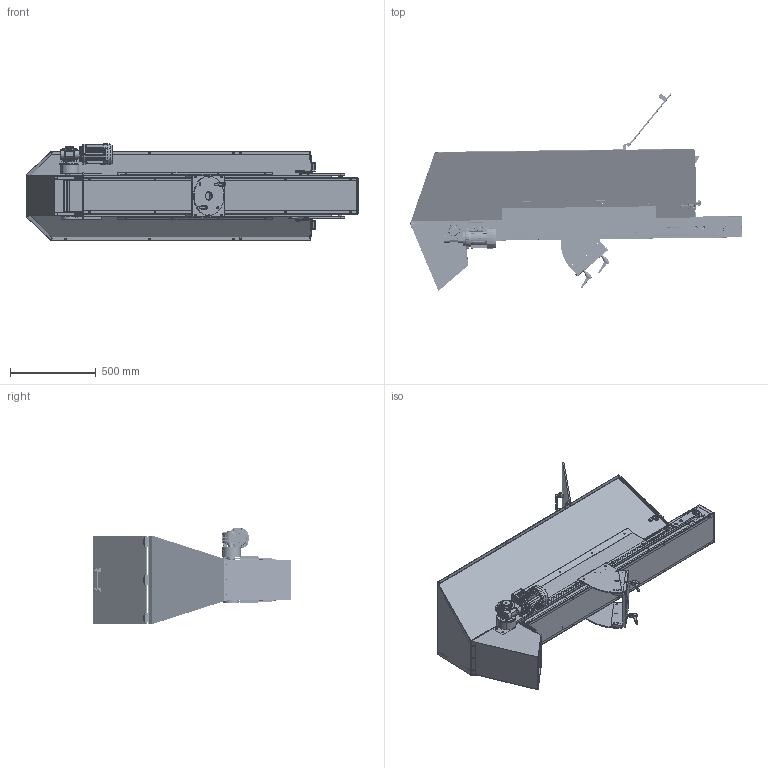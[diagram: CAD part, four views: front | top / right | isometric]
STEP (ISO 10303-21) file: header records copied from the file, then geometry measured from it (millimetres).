
FILE_DESCRIPTION (( 'STEP AP214' ), '1' );
FILE_NAME ('GM000487 Hopper feeder 100lt Inox_DX.STEP', '2023-07-20T15:05:37', ( '' ), ( '' ), 'SwSTEP 2.0', 'SolidWorks 2022', '' );
FILE_SCHEMA (( 'AUTOMOTIVE_DESIGN' ));
Length unit declared in the file: millimetre
Products named in the file (60): Copia (2) di CARICATORE_TENDINASTRO^CM000781; Copia (2) di CARICATORE_TRAMOG_LATO_SCARICO^CM000781; Copia (2) di CARICATORE_DISTA_CHIUS_CUFFIA^CM000781; Copia di CARICATORE_CHIUSURA_CUFFIA_POL2^CM000781; Copia (2) di CARICATORE_PROFILO_POLIZENE_DX^CM000781; GM000487 Hopper feeder 100lt Inox_DX; Copia di CARICATORE_SUP_DISCO_ANTIFRIZ^CM000781; CM000781_Sinistra; Copia di NORM30333_LAM_DI_RITORNO_FONDO_REV A^CM000781; Copia di CARICATORE_TRAVERSA_SOST^CM000781; Copia (2) di CARICATORE_CHIUSURA_CUFFIA_1^CM000781; Copia (2) di CARICATORE_PORTELLA_POSTERIORE^CM000781; Copia (2) di CARICATORE_FLANGIA_RINVIO^CM000781; Copia (2) di CARICATORE_FLANGIA_PORTAMOT^CM000781; Copia (2) di CARICATORE_CERNIERA_ASSIEME_ASM^CM000781; Copia (2) di CARICATORE_TRAVERSA^CM000781; Copia (2) di CARICATORE_PIASTRA_FISSAGG^CM000781; Copia di NORM30333_LAMIERA_FONDO_REV A^cm000781; Copia (2) di CARICATORE_SUPP_SPONDA_DX^CM000781; Copia (2) di CARICATORE_CHIUSURA_CUFFIA_2^CM000781; Copia (2) di CARICATORE_TRAMOGGIA_LATO_SX^CM000781; Copia (2) di CARICATORE_MANIGLIA^CM000781; Copia (2) di CARICATORE_PERNO_RINVIO^CM000781; CARICATORE_CERNIERA_CORPO(2)^Copia (2) di CARICATORE_CERNIERA_POST_ASS_ASM_CM000781; Copia (2) di CARICATORE_SUPP_SPONDA_SX^CM000781; Copia (2) di CARICATORE_CUSCIN_MOTORE^CM000781; Copia di CARICATORE_SPESS_PORTELLA_POST^CM000781; Copia di NORM30333_CUFFIA_DI_RITORNO_REV A^CM000781; Copia (2) di CARICATORE_TRAMOGG_LATO_CAR^CM000781; Copia (2) di CARICATORE_SERRAGGIO_DIR_ASS_ASM^CM000781; Copia di MANOPOLA_12X40^CM000781; Copia (2) di CARICATORE_TRAMOGGIA_LATO_DX^CM000781; CARICATORE_SERRAGGIO_DIR_GANCIO(2)^Copia (2) di CARICATORE_SERRAGGIO_DIR_ASS_ASM_CM000781; Copia di CARICATORE_CHIUSURA_CUFFIA_POL^CM000781; CARICATORE_CERNIERA_CORPO(2)^Copia (2) di CARICATORE_CERNIERA_ASSIEME_ASM_CM000781; Copia (2) di CARICATORE_PIATTO_CERNIERE_POST^CM000781; Copia (2) di CARICATORE_PIATTO_CAVA_PROF^CM000781; Copia (2) di CARICATORE_RULLO_PROFILO^CM000781; Copia di NORM30333_FIANCO_DI_RITORNO_DX_REV A^CM000781; CARICATORE_CERNIERA_ALETTA(2)^Copia (2) di CARICATORE_CERNIERA_POST_ASS_ASM_CM000781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
Assembly tree (84 placements, depth 4):
  GM000487 Hopper feeder 100lt Inox_DX
    CM000781_Sinistra
      Copia di motore^CM000781
      Copia (2) di CARICATORE_CERNIERA_ASSIEME_ASM^CM000781  x3
        CARICATORE_CERNIERA_CORPO(2)^Copia (2) di CARICATORE_CERNIERA_ASSIEME_ASM_CM000781
        CARICATORE_CERNIERA_ALETTA(2)^Copia (2) di CARICATORE_CERNIERA_ASSIEME_ASM_CM000781
      Copia (2) di CARICATORE_CERNIERA_POST_ASS_ASM^CM000781  x3
        CARICATORE_CERNIERA_CORPO(2)^Copia (2) di CARICATORE_CERNIERA_POST_ASS_ASM_CM000781
        CARICATORE_CERNIERA_ALETTA(2)^Copia (2) di CARICATORE_CERNIERA_POST_ASS_ASM_CM000781
      Copia (2) di CARICATORE_SERRAGGIO_DIR_ASS_ASM^CM000781  x2
        CARICATORE_SERRAGGIO_DIR_FISS(2)^Copia (2) di CARICATORE_SERRAGGIO_DIR_ASS_ASM_CM000781
        CARICATORE_SERRAGGIO_DIR_LEVA(2)^Copia (2) di CARICATORE_SERRAGGIO_DIR_ASS_ASM_CM000781
        CARICATORE_SERRAGGIO_DIR_GANCIO(2)^Copia (2) di CARICATORE_SERRAGGIO_DIR_ASS_ASM_CM000781
      Copia (2) di CARICATORE_RULLO_PROFILO^CM000781  x2
      Copia (2) di CARICATORE_GOMMATURA_RULLO_MOTO^CM000781
      Copia (2) di CARICATORE_PERNO_RINVIO^CM000781  x3
      Copia (2) di CARICATORE_CUSCINETTO^CM000781  x3
      Copia (2) di CARICATORE_FLANGIA_RINVIO^CM000781  x3
      Copia (2) di CARICATORE_TRAVERSA^CM000781  x3
      Copia (2) di CARICATORE_PROFILO_POLIZENE_SX^CM000781
      Copia (2) di CARICATORE_PROFILO_POLIZENE_DX^CM000781
      Copia (2) di CARICATORE_FLANGIA_PORTAMOT^CM000781
      Copia (2) di CARICATORE_CUSCIN_MOTORE^CM000781
      Copia (2) di CARICATORE_TENDINASTRO^CM000781  x2
      Copia (2) di CARICATORE_SUPP_SPONDA_DX^CM000781
      Copia (2) di CARICATORE_SUPP_SPONDA_SX^CM000781
      Copia (2) di CARICATORE_TRAMOGGIA_LATO_DX^CM000781
      Copia (2) di CARICATORE_TRAMOGGIA_LATO_SX^CM000781
      Copia (2) di CARICATORE_TRAMOGG_LATO_CAR^CM000781
      Copia (2) di CARICATORE_CUFFIA_DI_SCARICO^CM000781
      Copia (2) di CARICATORE_CUFFIA_SUPERIORE^CM000781
      Copia (2) di CARICATORE_PIATTO_CAVA_PROF^CM000781  x2
      Copia (2) di CARICATORE_TRAMOG_LATO_SCARICO^CM000781
      Copia (2) di CARICATORE_CHIUSURA_TEN_LAT^CM000781  x2
      Copia (2) di CARICATORE_TRAV_PORTACER^CM000781
      Copia (2) di CARICATORE_PORTELLA_CARICO^CM000781
      Copia (2) di CARICATORE_MANIGLIA^CM000781
      Copia (2) di CARICATORE_PIATTO_CERNIERE_POST^CM000781
      Copia (2) di CARICATORE_PORTELLA_POSTERIORE^CM000781
      Copia (2) di CARICATORE_MANOPOLA_LOBI_2^CM000781
      Copia (2) di CARICATORE_CHIUSURA_CUFFIA_2^CM000781
      Copia (2) di CARICATORE_CHIUSURA_CUFFIA_1^CM000781
      Copia (2) di CARICATORE_DISTA_CHIUS_CUFFIA^CM000781  x4
      Copia (2) di CARICATORE_FERMA_PEZZI^CM000781
      Copia (2) di CARICATORE_PIASTRA_FISSAGG^CM000781  x2
      Copia di CARICATORE_SUP_PIATTO_VERT^CM000781  x2
      Copia di CARICATORE_TRAVERSA_SOST^CM000781
      Copia di CARICATORE_SPESS_PORTELLA_POST^CM000781
      Copia di CARICATORE_CHIUSURA_CUFFIA_POL^CM000781
      Copia di CARICATORE_CHIUSURA_CUFFIA_POL2^CM000781
      Copia di CARICATORE_SUP_DISCO_ANTIFRIZ^CM000781
      Copia di MANOPOLA_12X40^CM000781  x2
      Copia di NORM30333_FIANCO_DI_RITORNO_DX_REV A^CM000781
      Copia di NORM30333_FIANCO_DI_RITORNO_SX_REV A^CM000781
      Copia di NORM30333_LAM_DI_RITORNO_FONDO_REV A^CM000781
      Copia di NORM30333_LONGHERONE_REV A^CM000781  x2
      Copia di NORM30333_CUFFIA_DI_RITORNO_REV A^CM000781
      Copia di NORM30333_PROFILO_POLIZENE_INF_REV A^CM000781  x2
      Copia di NORM30333_TAPPETO_REV A^CM000781
      Copia di NORM30333_LAMIERA_FONDO_REV A^cm000781
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Bounding box: 1935.84 x 1153.16 x 561.6 mm (x, y, z)
Volume: 16168845.2 mm3; surface area: 14398327.1 mm2
Topology: 69 solids, 238 shells, 5640 faces, 14925 edges, 9642 vertices
Faces by surface type: plane 2491, cylinder 2202, cone 527, bspline 189, torus 183, sphere 48
Entity records: 219034 total; most frequent: CARTESIAN_POINT 85487, ORIENTED_EDGE 23218, DIRECTION 18957, EDGE_CURVE 11807, VERTEX_POINT 7638, AXIS2_PLACEMENT_3D 7115, EDGE_LOOP 5317, VECTOR 4727
